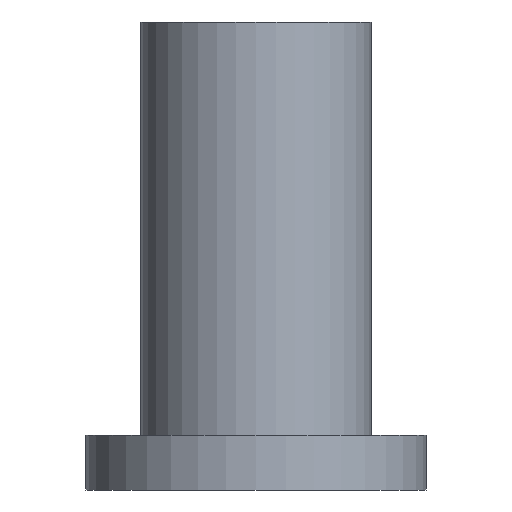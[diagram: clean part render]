
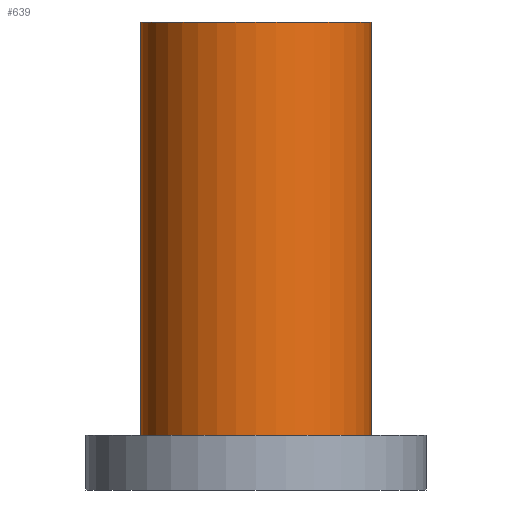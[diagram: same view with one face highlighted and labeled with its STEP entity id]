
A CAD part, front view. The second image highlights one B-rep face of the part: STEP entity #639.
In plain terms, the highlighted cylindrical face has radius 31.5 mm (diameter 63 mm), a partial arc.
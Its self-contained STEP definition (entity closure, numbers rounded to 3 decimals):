
#142=CARTESIAN_POINT('',(0.,0.,15.));
#143=DIRECTION('',(0.,0.,-1.));
#144=DIRECTION('',(1.,0.,0.));
#145=AXIS2_PLACEMENT_3D('',#142,#143,#144);
#232=DIRECTION('',(0.,0.,-1.));
#233=VECTOR('',#232,113.);
#234=CARTESIAN_POINT('',(31.5,0.,128.));
#235=LINE('',#234,#233);
#236=CARTESIAN_POINT('',(0.,0.,128.));
#237=DIRECTION('',(0.,0.,1.));
#238=DIRECTION('',(-1.,0.,0.));
#239=AXIS2_PLACEMENT_3D('',#236,#237,#238);
#256=DIRECTION('',(0.,0.,-1.));
#257=VECTOR('',#256,113.);
#258=CARTESIAN_POINT('',(-31.5,0.,128.));
#259=LINE('',#258,#257);
#385=CARTESIAN_POINT('',(31.5,0.,15.));
#386=CARTESIAN_POINT('',(-31.5,0.,15.));
#387=VERTEX_POINT('',#385);
#388=VERTEX_POINT('',#386);
#389=CARTESIAN_POINT('',(-31.5,0.,128.));
#390=CARTESIAN_POINT('',(31.5,0.,128.));
#391=VERTEX_POINT('',#389);
#392=VERTEX_POINT('',#390);
#625=CARTESIAN_POINT('',(0.,0.,128.));
#626=DIRECTION('',(0.,0.,1.));
#627=DIRECTION('',(1.,0.,0.));
#628=AXIS2_PLACEMENT_3D('',#625,#626,#627);
#629=CYLINDRICAL_SURFACE('',#628,31.5);
#631=ORIENTED_EDGE('',*,*,#630,.T.);
#633=ORIENTED_EDGE('',*,*,#632,.T.);
#634=ORIENTED_EDGE('',*,*,#570,.T.);
#636=ORIENTED_EDGE('',*,*,#635,.F.);
#637=EDGE_LOOP('',(#631,#633,#634,#636));
#638=FACE_OUTER_BOUND('',#637,.F.);
#146=CIRCLE('',#145,31.5);
#240=CIRCLE('',#239,31.5);
#570=EDGE_CURVE('',#387,#388,#146,.T.);
#630=EDGE_CURVE('',#391,#392,#240,.T.);
#632=EDGE_CURVE('',#392,#387,#235,.T.);
#635=EDGE_CURVE('',#391,#388,#259,.T.);
#639=ADVANCED_FACE('',(#638),#629,.T.);
